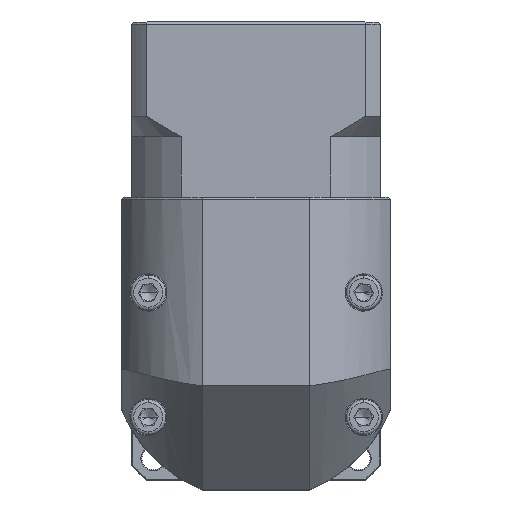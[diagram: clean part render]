
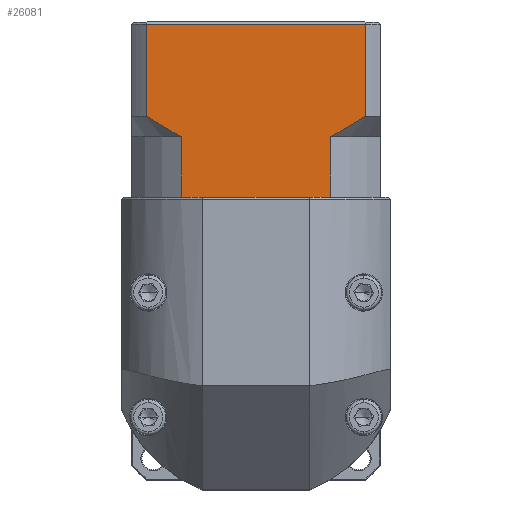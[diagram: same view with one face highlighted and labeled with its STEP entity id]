
A CAD part, top view. The second image highlights one B-rep face of the part: STEP entity #26081.
In plain terms, the highlighted planar face has unit normal (0, 0, 1).
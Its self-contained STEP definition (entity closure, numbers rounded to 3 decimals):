
#1591 = EDGE_CURVE ( 'NONE', #76866, #85390, #107305, .T. ) ;
#5506 = CARTESIAN_POINT ( 'NONE',  ( -102.082, 81.974, 80.424 ) ) ;
#10603 = B_SPLINE_CURVE_WITH_KNOTS ( 'NONE', 3,
 ( #80797, #45705, #99055, #27808, #106595, #20241 ),
 .UNSPECIFIED., .F., .F.,
 ( 4, 2, 4 ),
 ( 0.052, 0.057, 0.062 ),
 .UNSPECIFIED. ) ;
#10737 = DIRECTION ( 'NONE',  ( 0., -1., 0. ) ) ;
#11443 = VERTEX_POINT ( 'NONE', #54374 ) ;
#11618 = ORIENTED_EDGE ( 'NONE', *, *, #73806, .T. ) ;
#11841 = VECTOR ( 'NONE', #52106, 1000. ) ;
#14802 = CARTESIAN_POINT ( 'NONE',  ( -98.54, 81.474, 80.424 ) ) ;
#15225 = EDGE_CURVE ( 'NONE', #94304, #36903, #25610, .T. ) ;
#16208 = CARTESIAN_POINT ( 'NONE',  ( -54.055, 39.774, 80.424 ) ) ;
#20241 = CARTESIAN_POINT ( 'NONE',  ( -90.11, 54.274, 80.424 ) ) ;
#22107 = CARTESIAN_POINT ( 'NONE',  ( -48.367, 57.499, 80.424 ) ) ;
#24599 = CARTESIAN_POINT ( 'NONE',  ( -102.082, 39.774, 80.424 ) ) ;
#25241 = VERTEX_POINT ( 'NONE', #92300 ) ;
#25610 = LINE ( 'NONE', #61878, #84221 ) ;
#26081 = ADVANCED_FACE ( 'NONE', ( #27998 ), #100770, .F. ) ;
#27808 = CARTESIAN_POINT ( 'NONE',  ( -92.994, 55.826, 80.424 ) ) ;
#27998 = FACE_OUTER_BOUND ( 'NONE', #73207, .T. ) ;
#30310 = ORIENTED_EDGE ( 'NONE', *, *, #95101, .F. ) ;
#31796 = DIRECTION ( 'NONE',  ( 0., 1., 0. ) ) ;
#32042 = VECTOR ( 'NONE', #56552, 1000. ) ;
#34182 = EDGE_CURVE ( 'NONE', #94304, #87642, #52634, .T. ) ;
#34232 = CARTESIAN_POINT ( 'NONE',  ( -90.11, 54.274, 80.424 ) ) ;
#35732 = ORIENTED_EDGE ( 'NONE', *, *, #34182, .T. ) ;
#36565 = VECTOR ( 'NONE', #61535, 1000. ) ;
#36903 = VERTEX_POINT ( 'NONE', #16208 ) ;
#37971 = CARTESIAN_POINT ( 'NONE',  ( -98.54, 59.274, 80.424 ) ) ;
#41483 = CARTESIAN_POINT ( 'NONE',  ( -51.173, 55.825, 80.424 ) ) ;
#44110 = ORIENTED_EDGE ( 'NONE', *, *, #104050, .F. ) ;
#45705 = CARTESIAN_POINT ( 'NONE',  ( -97.18, 58.375, 80.424 ) ) ;
#46587 = VECTOR ( 'NONE', #71984, 1000. ) ;
#47927 = EDGE_CURVE ( 'NONE', #58390, #99052, #103925, .T. ) ;
#49494 = ORIENTED_EDGE ( 'NONE', *, *, #15225, .F. ) ;
#49655 = ORIENTED_EDGE ( 'NONE', *, *, #89187, .T. ) ;
#52106 = DIRECTION ( 'NONE',  ( 0., 1., 0. ) ) ;
#52634 = B_SPLINE_CURVE_WITH_KNOTS ( 'NONE', 3,
 ( #56758, #74236, #41483, #22107, #59043, #67786 ),
 .UNSPECIFIED., .F., .F.,
 ( 4, 2, 4 ),
 ( 0.1, 0.104, 0.109 ),
 .UNSPECIFIED. ) ;
#54374 = CARTESIAN_POINT ( 'NONE',  ( -90.11, 54.274, 80.424 ) ) ;
#54578 = EDGE_CURVE ( 'NONE', #25241, #36903, #105524, .T. ) ;
#55612 = CARTESIAN_POINT ( 'NONE',  ( -98.54, 54.274, 80.424 ) ) ;
#56552 = DIRECTION ( 'NONE',  ( 1., 0., 0. ) ) ;
#56758 = CARTESIAN_POINT ( 'NONE',  ( -54.055, 54.274, 80.424 ) ) ;
#58145 = DIRECTION ( 'NONE',  ( 1., 0., 0. ) ) ;
#58390 = VERTEX_POINT ( 'NONE', #88962 ) ;
#59043 = CARTESIAN_POINT ( 'NONE',  ( -46.988, 58.373, 80.424 ) ) ;
#61535 = DIRECTION ( 'NONE',  ( 1., 0., 0. ) ) ;
#61878 = CARTESIAN_POINT ( 'NONE',  ( -54.055, 54.274, 80.424 ) ) ;
#65345 = VERTEX_POINT ( 'NONE', #37971 ) ;
#67021 = CARTESIAN_POINT ( 'NONE',  ( -45.625, 81.474, 80.424 ) ) ;
#67786 = CARTESIAN_POINT ( 'NONE',  ( -45.625, 59.274, 80.424 ) ) ;
#68398 = LINE ( 'NONE', #55612, #46587 ) ;
#71842 = ORIENTED_EDGE ( 'NONE', *, *, #1591, .T. ) ;
#71859 = CARTESIAN_POINT ( 'NONE',  ( -54.055, 54.274, 80.424 ) ) ;
#71984 = DIRECTION ( 'NONE',  ( 0., 1., 0. ) ) ;
#72483 = CARTESIAN_POINT ( 'NONE',  ( -89.119, 39.774, 80.424 ) ) ;
#73207 = EDGE_LOOP ( 'NONE', ( #30310, #71842, #44110, #11618, #91499, #76692, #49655, #94709, #49494, #35732 ) ) ;
#73806 = EDGE_CURVE ( 'NONE', #65345, #11443, #10603, .T. ) ;
#74236 = CARTESIAN_POINT ( 'NONE',  ( -52.598, 55.025, 80.424 ) ) ;
#74733 = LINE ( 'NONE', #86322, #36565 ) ;
#76113 = CARTESIAN_POINT ( 'NONE',  ( -45.625, 59.274, 80.424 ) ) ;
#76692 = ORIENTED_EDGE ( 'NONE', *, *, #47927, .T. ) ;
#76866 = VERTEX_POINT ( 'NONE', #67021 ) ;
#77362 = VECTOR ( 'NONE', #87031, 1000. ) ;
#79466 = VECTOR ( 'NONE', #58145, 1000. ) ;
#80797 = CARTESIAN_POINT ( 'NONE',  ( -98.54, 59.274, 80.424 ) ) ;
#84048 = CARTESIAN_POINT ( 'NONE',  ( -102.082, 81.474, 80.424 ) ) ;
#84221 = VECTOR ( 'NONE', #97277, 1000. ) ;
#85390 = VERTEX_POINT ( 'NONE', #14802 ) ;
#86322 = CARTESIAN_POINT ( 'NONE',  ( -102.082, 39.774, 80.424 ) ) ;
#87031 = DIRECTION ( 'NONE',  ( -1., 0., 0. ) ) ;
#87642 = VERTEX_POINT ( 'NONE', #76113 ) ;
#88520 = VECTOR ( 'NONE', #10737, 1000. ) ;
#88962 = CARTESIAN_POINT ( 'NONE',  ( -90.11, 39.774, 80.424 ) ) ;
#89187 = EDGE_CURVE ( 'NONE', #99052, #25241, #74733, .T. ) ;
#90247 = EDGE_CURVE ( 'NONE', #58390, #11443, #100468, .T. ) ;
#91499 = ORIENTED_EDGE ( 'NONE', *, *, #90247, .F. ) ;
#92300 = CARTESIAN_POINT ( 'NONE',  ( -55.046, 39.774, 80.424 ) ) ;
#94304 = VERTEX_POINT ( 'NONE', #71859 ) ;
#94709 = ORIENTED_EDGE ( 'NONE', *, *, #54578, .T. ) ;
#95101 = EDGE_CURVE ( 'NONE', #76866, #87642, #102198, .T. ) ;
#95296 = CARTESIAN_POINT ( 'NONE',  ( -45.625, 54.274, 80.424 ) ) ;
#95853 = AXIS2_PLACEMENT_3D ( 'NONE', #5506, #109001, #31796 ) ;
#97277 = DIRECTION ( 'NONE',  ( 0., -1., 0. ) ) ;
#99052 = VERTEX_POINT ( 'NONE', #72483 ) ;
#99055 = CARTESIAN_POINT ( 'NONE',  ( -95.801, 57.502, 80.424 ) ) ;
#100468 = LINE ( 'NONE', #34232, #11841 ) ;
#100738 = CARTESIAN_POINT ( 'NONE',  ( -102.082, 39.774, 80.424 ) ) ;
#100770 = PLANE ( 'NONE',  #95853 ) ;
#102198 = LINE ( 'NONE', #95296, #88520 ) ;
#103925 = LINE ( 'NONE', #24599, #79466 ) ;
#104050 = EDGE_CURVE ( 'NONE', #65345, #85390, #68398, .T. ) ;
#105524 = LINE ( 'NONE', #100738, #32042 ) ;
#106595 = CARTESIAN_POINT ( 'NONE',  ( -91.562, 55.022, 80.424 ) ) ;
#107305 = LINE ( 'NONE', #84048, #77362 ) ;
#109001 = DIRECTION ( 'NONE',  ( 0., 0., -1. ) ) ;
